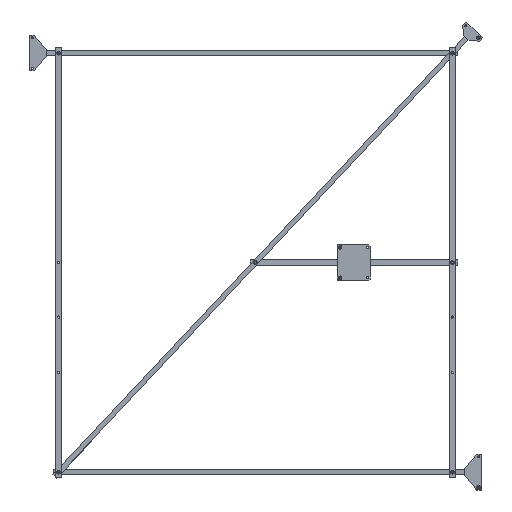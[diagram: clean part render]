
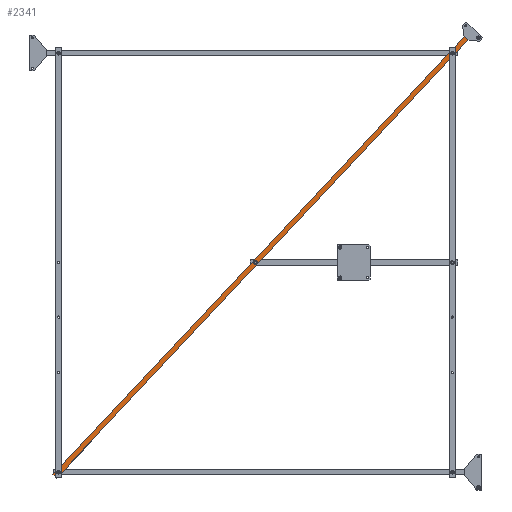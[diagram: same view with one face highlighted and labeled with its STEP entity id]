
A CAD part, top view. The second image highlights one B-rep face of the part: STEP entity #2341.
In plain terms, the highlighted planar face has unit normal (0, 0, 1).
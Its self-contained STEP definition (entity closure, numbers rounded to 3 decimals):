
#803=LINE('',#12980,#1391);
#811=LINE('',#12997,#1399);
#819=LINE('',#13014,#1407);
#821=LINE('',#13017,#1409);
#1391=VECTOR('',#10656,1.);
#1399=VECTOR('',#10666,1.);
#1407=VECTOR('',#10676,1.);
#1409=VECTOR('',#10680,1.);
#1952=PLANE('',#9610);
#2341=ADVANCED_FACE('',(#3193,#3194,#3195,#3196),#1952,.T.);
#3193=FACE_BOUND('',#3885,.T.);
#3194=FACE_BOUND('',#3886,.T.);
#3195=FACE_BOUND('',#3887,.T.);
#3196=FACE_BOUND('',#3888,.T.);
#3885=EDGE_LOOP('',(#4938));
#3886=EDGE_LOOP('',(#4939));
#3887=EDGE_LOOP('',(#4940));
#3888=EDGE_LOOP('',(#4941,#4942,#4943,#4944));
#4938=ORIENTED_EDGE('',*,*,#7832,.T.);
#4939=ORIENTED_EDGE('',*,*,#7833,.T.);
#4940=ORIENTED_EDGE('',*,*,#7834,.T.);
#4941=ORIENTED_EDGE('',*,*,#7809,.T.);
#4942=ORIENTED_EDGE('',*,*,#7825,.T.);
#4943=ORIENTED_EDGE('',*,*,#7817,.T.);
#4944=ORIENTED_EDGE('',*,*,#7827,.T.);
#6967=VERTEX_POINT('',#12981);
#6968=VERTEX_POINT('',#12982);
#6975=VERTEX_POINT('',#12998);
#6976=VERTEX_POINT('',#12999);
#6986=VERTEX_POINT('',#13028);
#6987=VERTEX_POINT('',#13030);
#6988=VERTEX_POINT('',#13032);
#7809=EDGE_CURVE('',#6967,#6968,#803,.T.);
#7817=EDGE_CURVE('',#6975,#6976,#811,.T.);
#7825=EDGE_CURVE('',#6968,#6975,#819,.T.);
#7827=EDGE_CURVE('',#6976,#6967,#821,.T.);
#7832=EDGE_CURVE('',#6986,#6986,#9232,.T.);
#7833=EDGE_CURVE('',#6987,#6987,#9233,.T.);
#7834=EDGE_CURVE('',#6988,#6988,#9234,.T.);
#9232=CIRCLE('',#9607,6.);
#9233=CIRCLE('',#9608,6.);
#9234=CIRCLE('',#9609,6.);
#9607=AXIS2_PLACEMENT_3D('',#13027,#10692,#10693);
#9608=AXIS2_PLACEMENT_3D('',#13029,#10694,#10695);
#9609=AXIS2_PLACEMENT_3D('',#13031,#10696,#10697);
#9610=AXIS2_PLACEMENT_3D('',#13033,#10698,#10699);
#10656=DIRECTION('',(-0.729,0.685,0.));
#10666=DIRECTION('',(0.729,-0.685,0.));
#10676=DIRECTION('',(-0.685,-0.729,0.));
#10680=DIRECTION('',(0.685,0.729,0.));
#10692=DIRECTION('',(0.,0.,-1.));
#10693=DIRECTION('',(0.685,0.729,0.));
#10694=DIRECTION('',(0.,0.,-1.));
#10695=DIRECTION('',(0.685,0.729,0.));
#10696=DIRECTION('',(0.,0.,-1.));
#10697=DIRECTION('',(0.685,0.729,0.));
#10698=DIRECTION('',(0.,0.,1.));
#10699=DIRECTION('',(-0.685,-0.729,0.));
#12980=CARTESIAN_POINT('',(-25.596,2532.036,60.));
#12981=CARTESIAN_POINT('',(-14.665,2521.765,60.));
#12982=CARTESIAN_POINT('',(-36.527,2542.308,60.));
#12997=CARTESIAN_POINT('',(-2346.989,61.564,60.));
#12998=CARTESIAN_POINT('',(-2357.92,71.835,60.));
#12999=CARTESIAN_POINT('',(-2336.057,51.292,60.));
#13014=CARTESIAN_POINT('',(-136.149,2436.289,60.));
#13017=CARTESIAN_POINT('',(-2335.373,52.021,60.));
#13027=CARTESIAN_POINT('',(-1235.761,1244.155,60.));
#13028=CARTESIAN_POINT('',(-1231.652,1248.527,60.));
#13029=CARTESIAN_POINT('',(-2325.761,84.155,60.));
#13030=CARTESIAN_POINT('',(-2321.652,88.527,60.));
#13031=CARTESIAN_POINT('',(-145.761,2404.155,60.));
#13032=CARTESIAN_POINT('',(-141.652,2408.527,60.));
#13033=CARTESIAN_POINT('',(-1235.761,1244.155,60.));
